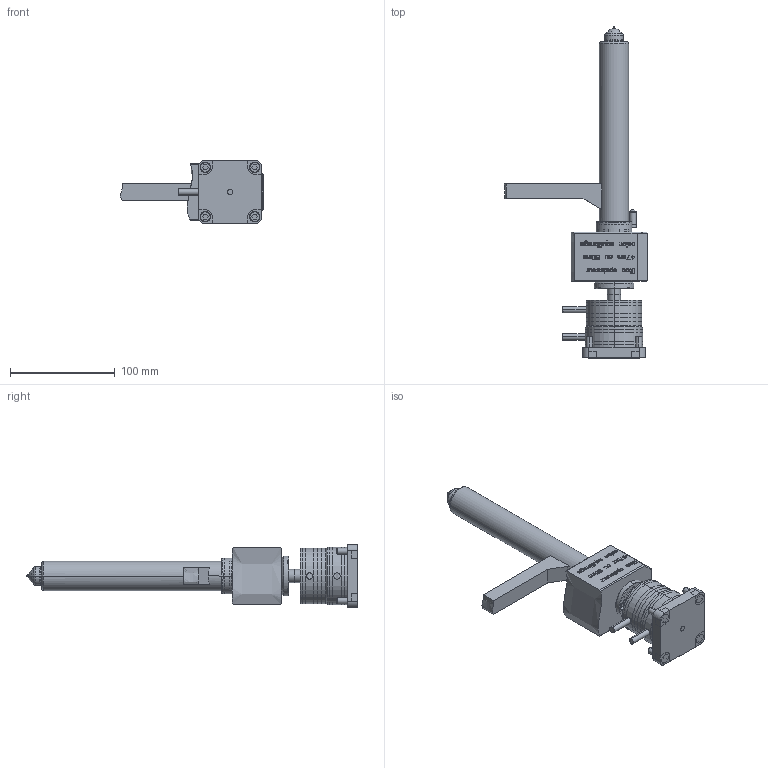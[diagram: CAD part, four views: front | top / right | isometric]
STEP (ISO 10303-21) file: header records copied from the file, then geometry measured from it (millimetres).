
FILE_DESCRIPTION((''),'2;1');
FILE_NAME('DG051018-VP_ASM','2020-04-09T',('benoit'),(''),'PRO/ENGINEER BY PARAMETRIC TECHNOLOGY CORPORATION, 2007450','PRO/ENGINEER BY PARAMETRIC TECHNOLOGY CORPORATION, 2007450','');
FILE_SCHEMA(('CONFIG_CONTROL_DESIGN'));
Length unit declared in the file: millimetre
Products named in the file (20): DG010029; 19X1_2E; BF021028-AV; DG050020; CAPOT_97_54MM; GOUPILLE-6-16; DG050018-POCHE-DP; A047315-DG196-1_5; BLOC-OBTURATION; VP010047; VP010032; VP010033; VP010035; VP010034; VIS_F90M5-8; VP010031; VIS_CHCM6-14; VP010030-POCHE; VP010030_ASM; DG051018-VP_ASM
Assembly tree (24 placements, depth 3):
  DG051018-VP_ASM
    DG010029
    19X1_2E  x2
    BF021028-AV
    DG050020
    CAPOT_97_54MM
    GOUPILLE-6-16
    DG050018-POCHE-DP
    A047315-DG196-1_5
    BLOC-OBTURATION
    VP010047
    VP010030_ASM
      VP010032
      VP010033
      VP010035
      VP010034
      VIS_F90M5-8  x2
      VP010031
      VIS_CHCM6-14  x4
      VP010030-POCHE
Bounding box: 136.5 x 316.56 x 60 mm (x, y, z)
Volume: 642378.5 mm3; surface area: 169686 mm2
Topology: 23 solids, 23 shells, 2194 faces, 5899 edges, 3820 vertices
Faces by surface type: plane 1601, cylinder 313, cone 148, torus 77, bspline 36, sphere 15, extrusion 4
Entity records: 71758 total; most frequent: CARTESIAN_POINT 18309, ORIENTED_EDGE 11336, DIRECTION 10446, EDGE_CURVE 5668, VECTOR 4580, LINE 4576, VERTEX_POINT 3695, AXIS2_PLACEMENT_3D 2933
